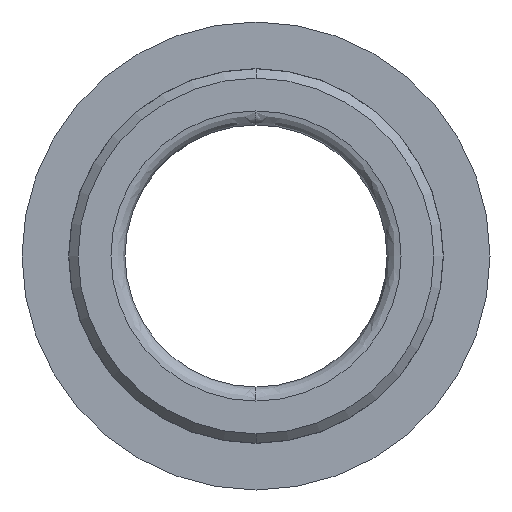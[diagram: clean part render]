
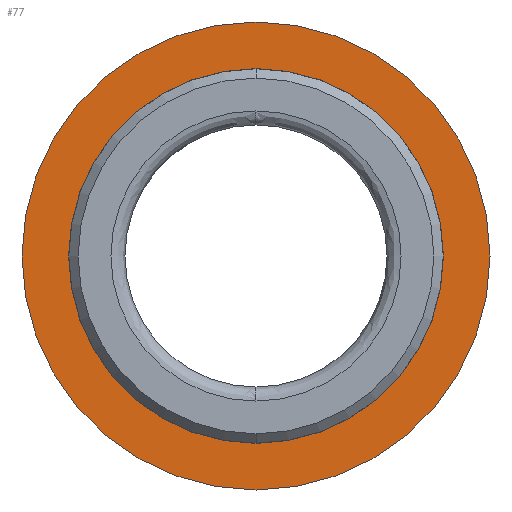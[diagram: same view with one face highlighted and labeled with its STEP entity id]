
A CAD part, left-side view. The second image highlights one B-rep face of the part: STEP entity #77.
In plain terms, the highlighted free-form (B-spline) face has degree [1, 1] with [2, 2] control points.
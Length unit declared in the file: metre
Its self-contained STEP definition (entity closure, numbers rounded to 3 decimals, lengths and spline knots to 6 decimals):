
#77 = ADVANCED_FACE( '', ( #108, #109 ), #110, .T. );
#108 = FACE_BOUND( '', #173, .T. );
#109 = FACE_OUTER_BOUND( '', #174, .T. );
#110 = B_SPLINE_SURFACE_WITH_KNOTS( '', 1, 1, ( ( #175, #176 ), ( #177, #178 ) ), .UNSPECIFIED., .F., .F., .F., ( 2, 2 ), ( 2, 2 ), ( 0., 1. ), ( 0., 1. ), .UNSPECIFIED. );
#173 = EDGE_LOOP( '', ( #365, #366 ) );
#174 = EDGE_LOOP( '', ( #367, #368 ) );
#175 = CARTESIAN_POINT( '', ( 0.01, -0.01265, -0.01265 ) );
#176 = CARTESIAN_POINT( '', ( 0.01, 0.01265, -0.01265 ) );
#177 = CARTESIAN_POINT( '', ( 0.01, -0.01265, 0.01265 ) );
#178 = CARTESIAN_POINT( '', ( 0.01, 0.01265, 0.01265 ) );
#365 = ORIENTED_EDGE( '', *, *, #553, .T. );
#366 = ORIENTED_EDGE( '', *, *, #554, .T. );
#367 = ORIENTED_EDGE( '', *, *, #555, .T. );
#368 = ORIENTED_EDGE( '', *, *, #556, .T. );
#553 = EDGE_CURVE( '', #611, #612, #613, .T. );
#554 = EDGE_CURVE( '', #612, #611, #614, .T. );
#555 = EDGE_CURVE( '', #615, #616, #617, .F. );
#556 = EDGE_CURVE( '', #616, #615, #618, .F. );
#611 = VERTEX_POINT( '', #705 );
#612 = VERTEX_POINT( '', #706 );
#613 = CIRCLE( '', #707, 0.01 );
#614 = CIRCLE( '', #708, 0.01 );
#615 = VERTEX_POINT( '', #709 );
#616 = VERTEX_POINT( '', #710 );
#617 = CIRCLE( '', #711, 0.0125 );
#618 = CIRCLE( '', #712, 0.0125 );
#705 = CARTESIAN_POINT( '', ( 0.01, 0., -0.01 ) );
#706 = CARTESIAN_POINT( '', ( 0.01, 0., 0.01 ) );
#707 = AXIS2_PLACEMENT_3D( '', #857, #858, #859 );
#708 = AXIS2_PLACEMENT_3D( '', #860, #861, #862 );
#709 = CARTESIAN_POINT( '', ( 0.01, 0., 0.0125 ) );
#710 = CARTESIAN_POINT( '', ( 0.01, 0., -0.0125 ) );
#711 = AXIS2_PLACEMENT_3D( '', #863, #864, #865 );
#712 = AXIS2_PLACEMENT_3D( '', #866, #867, #868 );
#857 = CARTESIAN_POINT( '', ( 0.01, 0., 0. ) );
#858 = DIRECTION( '', ( 1., 0., 0. ) );
#859 = DIRECTION( '', ( 0., 0., -1. ) );
#860 = CARTESIAN_POINT( '', ( 0.01, 0., 0. ) );
#861 = DIRECTION( '', ( 1., 0., 0. ) );
#862 = DIRECTION( '', ( 0., 0., -1. ) );
#863 = CARTESIAN_POINT( '', ( 0.01, 0., 0. ) );
#864 = DIRECTION( '', ( 1., 0., 0. ) );
#865 = DIRECTION( '', ( 0., 0., -1. ) );
#866 = CARTESIAN_POINT( '', ( 0.01, 0., 0. ) );
#867 = DIRECTION( '', ( 1., 0., 0. ) );
#868 = DIRECTION( '', ( 0., 0., -1. ) );
